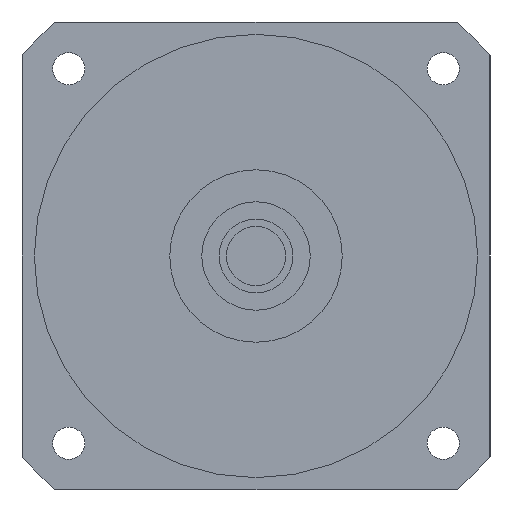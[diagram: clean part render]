
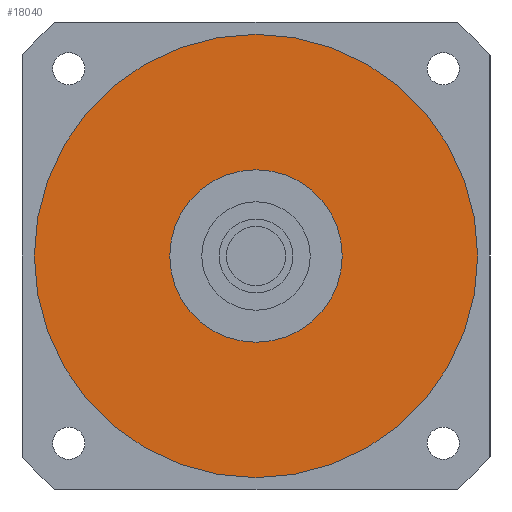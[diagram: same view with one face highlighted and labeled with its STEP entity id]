
A CAD part, left-side view. The second image highlights one B-rep face of the part: STEP entity #18040.
In plain terms, the highlighted planar face has unit normal (-1, 0, 0) as drawn and (0, 0, -1) by its records, which use the part's own axes.
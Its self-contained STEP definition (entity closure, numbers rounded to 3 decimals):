
#17460=CARTESIAN_POINT('',(90.,0.,-55.2));
#17470=VERTEX_POINT('',#17460);
#17560=CARTESIAN_POINT('',(-90.,0.,-55.2));
#17570=VERTEX_POINT('',#17560);
#17600=CARTESIAN_POINT('',(0.,0.,
-55.2));
#17610=DIRECTION('',(0.,0.,1.));
#17620=DIRECTION('',(0.,1.,0.));
#17630=AXIS2_PLACEMENT_3D('',#17600,#17610,#17620);
#17640=CIRCLE('',#17630,90.);
#17650=CARTESIAN_POINT('',(0.,90.,-55.2));
#17660=VERTEX_POINT('',#17650);
#17670=EDGE_CURVE('',#17660,#17570,#17640,.T.);
#17690=EDGE_CURVE('',#17470,#17660,#17640,.T.);
#17740=CARTESIAN_POINT('',(0.,0.,
-55.2));
#17750=DIRECTION('',(0.,0.,1.));
#17760=DIRECTION('',(-1.,0.,0.));
#17770=AXIS2_PLACEMENT_3D('',#17740,#17750,#17760);
#17780=PLANE('',#17770);
#17790=CARTESIAN_POINT('',(0.,0.,
-55.2));
#17800=DIRECTION('',(0.,0.,1.));
#17810=DIRECTION('',(0.,1.,0.));
#17820=AXIS2_PLACEMENT_3D('',#17790,#17800,#17810);
#17830=CIRCLE('',#17820,35.);
#17840=CARTESIAN_POINT('',(-35.,0.,-55.2));
#17850=VERTEX_POINT('',#17840);
#17860=CARTESIAN_POINT('',(35.,0.,-55.2));
#17870=VERTEX_POINT('',#17860);
#17880=EDGE_CURVE('',#17850,#17870,#17830,.T.);
#17890=ORIENTED_EDGE('',*,*,#17880,.T.);
#17900=CARTESIAN_POINT('',(0.,35.,-55.2));
#17910=VERTEX_POINT('',#17900);
#17920=EDGE_CURVE('',#17910,#17850,#17830,.T.);
#17930=ORIENTED_EDGE('',*,*,#17920,.T.);
#17940=EDGE_CURVE('',#17870,#17910,#17830,.T.);
#17950=ORIENTED_EDGE('',*,*,#17940,.T.);
#17960=EDGE_LOOP('',(#17950,#17930,#17890));
#17970=FACE_BOUND('',#17960,.T.);
#17980=ORIENTED_EDGE('',*,*,#17670,.F.);
#17990=EDGE_CURVE('',#17570,#17470,#17640,.T.);
#18000=ORIENTED_EDGE('',*,*,#17990,.F.);
#18010=ORIENTED_EDGE('',*,*,#17690,.F.);
#18020=EDGE_LOOP('',(#18010,#18000,#17980));
#18030=FACE_OUTER_BOUND('',#18020,.T.);
#18040=ADVANCED_FACE('',(#17970,#18030),#17780,.F.);
